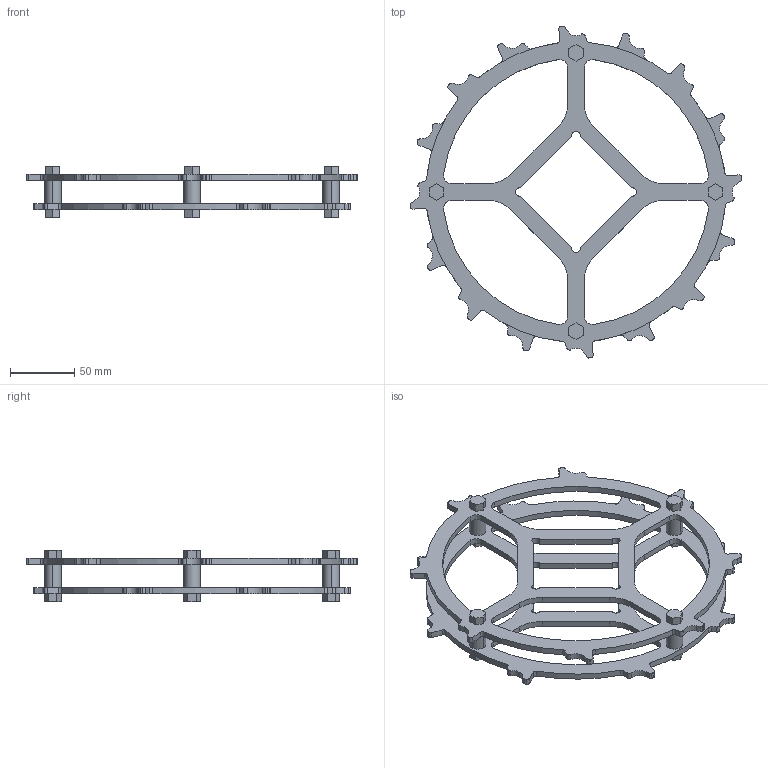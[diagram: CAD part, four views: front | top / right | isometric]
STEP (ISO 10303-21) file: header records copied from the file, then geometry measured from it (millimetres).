
FILE_DESCRIPTION((''),'2;1');
FILE_NAME('S200_AR_METAL_101X65_SQ_ASM','2008-12-12T',('jmumphre'),(''),'PRO/ENGINEER BY PARAMETRIC TECHNOLOGY CORPORATION, 2008150','PRO/ENGINEER BY PARAMETRIC TECHNOLOGY CORPORATION, 2008150','');
FILE_SCHEMA(('CONFIG_CONTROL_DESIGN'));
Length unit declared in the file: inch
Products named in the file (5): S200_TP_AR_101X65-A_SQ; S200_TP_AR_101X65-B_SQ; S200_SPACER_BUSHING; BOLTS_N_NUTS_8-500X1-084; S200_AR_METAL_101X65_SQ_ASM
Assembly tree (7 placements, depth 2):
  S200_AR_METAL_101X65_SQ_ASM
    S200_TP_AR_101X65-A_SQ
    S200_TP_AR_101X65-B_SQ
    S200_SPACER_BUSHING  x4
    BOLTS_N_NUTS_8-500X1-084
Bounding box: 257.52 x 257.52 x 40.23 mm (x, y, z)
Volume: 168920 mm3; surface area: 99264.5 mm2
Topology: 10 solids, 10 shells, 372 faces, 1032 edges, 688 vertices
Faces by surface type: cylinder 216, plane 156
Entity records: 11821 total; most frequent: DIRECTION 2136, CARTESIAN_POINT 2026, ORIENTED_EDGE 1992, EDGE_CURVE 996, AXIS2_PLACEMENT_3D 774, VERTEX_POINT 664, VECTOR 588, LINE 588
